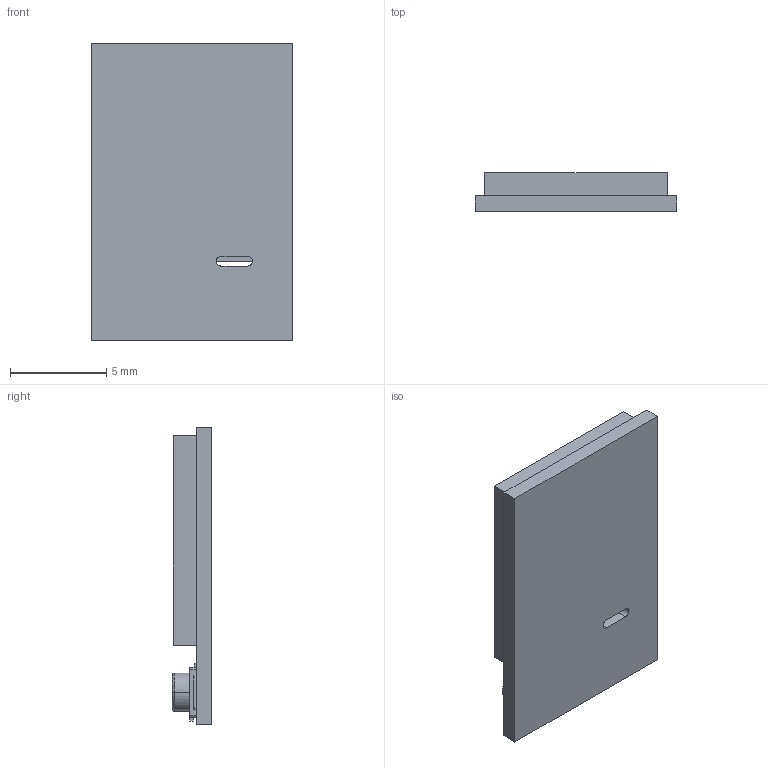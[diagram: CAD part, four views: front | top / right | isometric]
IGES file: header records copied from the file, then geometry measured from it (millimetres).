
Start section:  PTC IGES file: mdbt50q-p.igs
Global section: file name: mdbt50q-p.igs; native system: Creo Parametric by Parametric Technology Corporation; preprocessor: 2012230; author: Jack; organization: Unknown; date: 20180617.222912; units: millimetre
Bounding box: 10.5 x 2.05 x 15.5 mm (x, y, z)
Surface area: 433.7 mm2 (no closed solid volume)
Topology: 0 solids, 0 shells, 57 faces, 296 edges, 294 vertices
Faces by surface type: bspline 38, revolution 19
